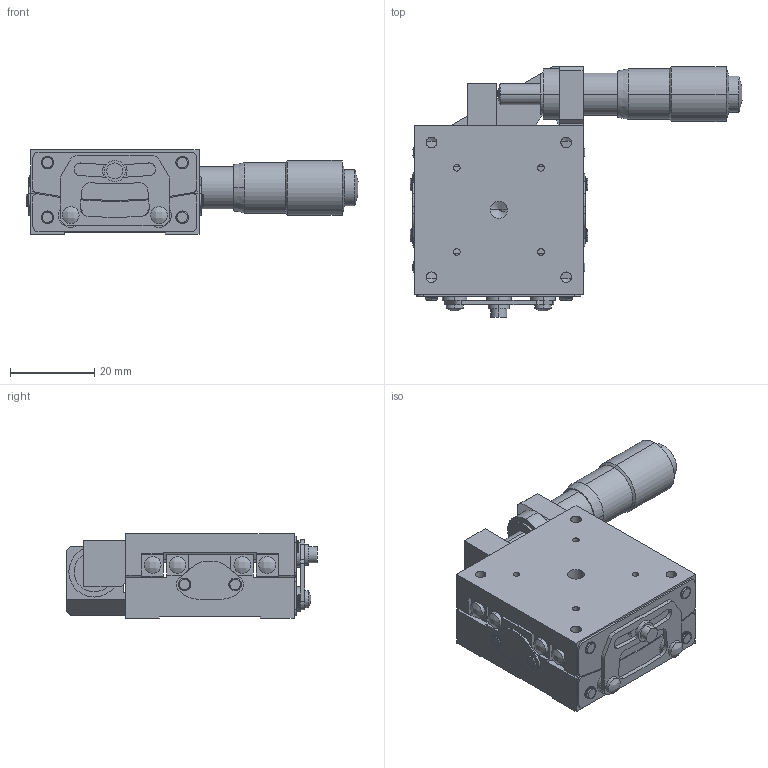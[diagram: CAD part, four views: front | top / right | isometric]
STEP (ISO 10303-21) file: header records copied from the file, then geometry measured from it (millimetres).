
FILE_DESCRIPTION (( 'STEP AP203' ), '1' );
FILE_NAME ('3D_B58-40WLCR.STEP', '2024-01-23T05:43:47', ( '' ), ( '' ), 'SwSTEP 2.0', 'SolidWorks 2017', '' );
FILE_SCHEMA (( 'CONFIG_CONTROL_DESIGN' ));
Length unit declared in the file: millimetre
Products named in the file (4): 1; 2; 3D_B58-40WLCR; 3
Assembly tree (3 placements, depth 2):
  3D_B58-40WLCR
    1
    2
    3
Bounding box: 78.87 x 59.5 x 20 mm (x, y, z)
Volume: 2205.9 mm3; surface area: 18940.8 mm2
Topology: 1 solids, 3 shells, 402 faces, 1033 edges, 672 vertices
Faces by surface type: cylinder 188, plane 158, bspline 44, cone 12
Entity records: 14924 total; most frequent: CARTESIAN_POINT 4656, DIRECTION 2105, ORIENTED_EDGE 2035, EDGE_CURVE 1031, AXIS2_PLACEMENT_3D 797, VERTEX_POINT 672, LINE 511, VECTOR 511
